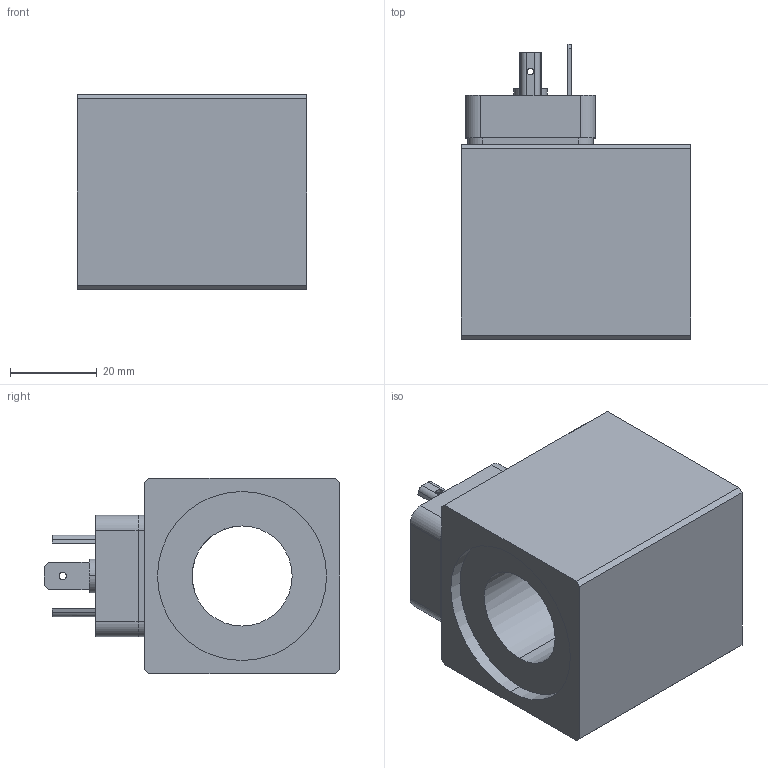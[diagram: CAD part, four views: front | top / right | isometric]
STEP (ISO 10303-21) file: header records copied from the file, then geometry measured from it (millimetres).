
FILE_DESCRIPTION (( 'STEP AP214' ), '1' );
FILE_NAME ('MDS45_23x50.STEP', '2014-07-14T11:27:37', ( '' ), ( '' ), 'SwSTEP 2.0', 'SolidWorks 2014', '' );
FILE_SCHEMA (( 'AUTOMOTIVE_DESIGN' ));
Length unit declared in the file: millimetre
Products named in the file (2): MDS45_23x50
Bounding box: 53 x 68.1 x 45 mm (x, y, z)
Volume: 86498.3 mm3; surface area: 27016.7 mm2
Topology: 10 solids, 10 shells, 322 faces, 855 edges, 564 vertices
Faces by surface type: plane 206, cylinder 100, cone 14, bspline 2
Entity records: 13839 total; most frequent: CARTESIAN_POINT 1906, DIRECTION 1708, ORIENTED_EDGE 1706, EDGE_CURVE 853, VECTOR 600, LINE 600, VERTEX_POINT 564, AXIS2_PLACEMENT_3D 554
